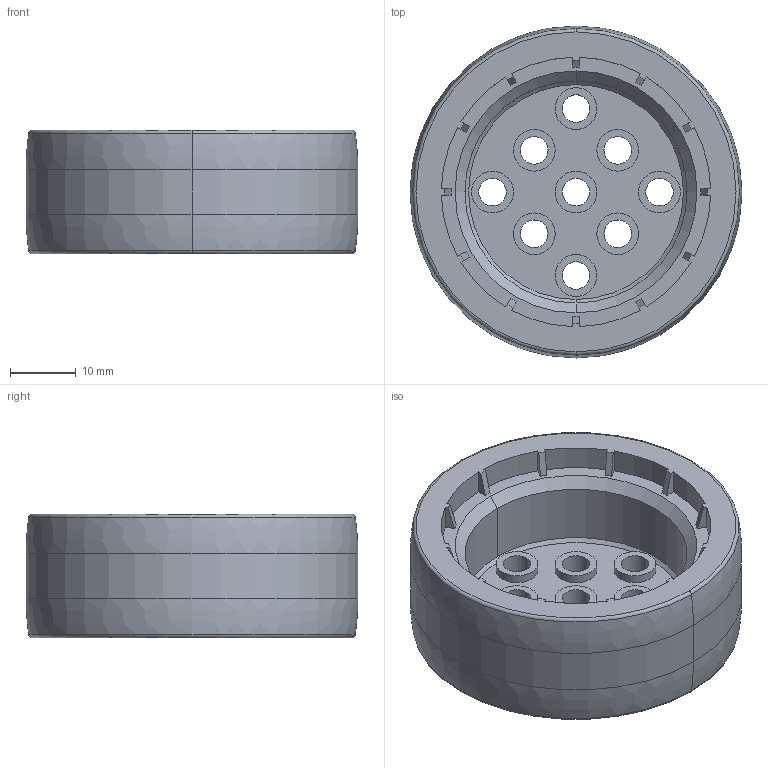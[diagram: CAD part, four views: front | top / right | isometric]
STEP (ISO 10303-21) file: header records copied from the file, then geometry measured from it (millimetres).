
FILE_DESCRIPTION (( 'STEP AP214' ), '1' );
FILE_NAME ('228-2500-1384.STEP', '2021-02-18T20:14:59', ( '' ), ( '' ), 'SwSTEP 2.0', 'SolidWorks 2019', '' );
FILE_SCHEMA (( 'AUTOMOTIVE_DESIGN' ));
Length unit declared in the file: millimetre
Products named in the file (1): 228-2500-1384
Bounding box: 50.5 x 50.5 x 18.8 mm (x, y, z)
Volume: 12319.5 mm3; surface area: 14359.4 mm2
Topology: 1 solids, 1 shells, 264 faces, 711 edges, 470 vertices
Faces by surface type: plane 107, cylinder 96, cone 53, torus 8
Entity records: 8627 total; most frequent: CARTESIAN_POINT 1806, DIRECTION 1455, ORIENTED_EDGE 1422, EDGE_CURVE 711, AXIS2_PLACEMENT_3D 575, VERTEX_POINT 470, CIRCLE 310, VECTOR 305
